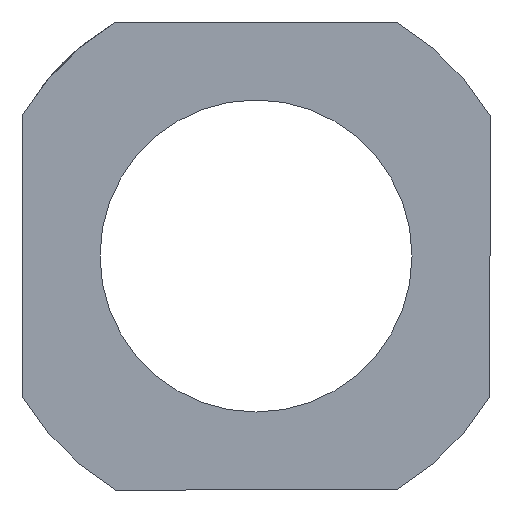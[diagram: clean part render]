
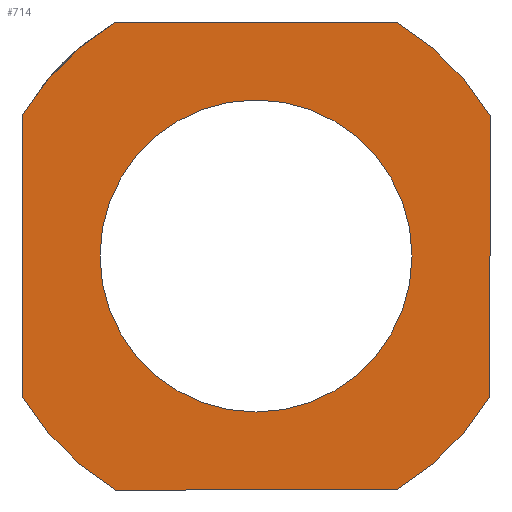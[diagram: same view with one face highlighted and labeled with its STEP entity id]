
A CAD part, left-side view. The second image highlights one B-rep face of the part: STEP entity #714.
In plain terms, the highlighted planar face has unit normal (-1, 0, 0).
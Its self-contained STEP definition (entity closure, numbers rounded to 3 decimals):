
#409=CARTESIAN_POINT('',(0.0,-10.0,0.0));
#410=VERTEX_POINT('',#409);
#411=CARTESIAN_POINT('',(0.0,0.0,0.0));
#412=DIRECTION('',(1.0,0.0,0.0));
#413=DIRECTION('',(0.0,-1.0,0.0));
#414=AXIS2_PLACEMENT_3D('',#411,#412,#413);
#415=CIRCLE('',#414,10.0);
#416=EDGE_CURVE('',#410,#410,#415,.T.);
#436=CARTESIAN_POINT('',(0.0,9.014,15.0));
#437=VERTEX_POINT('',#436);
#444=CARTESIAN_POINT('',(0.0,-9.014,15.));
#445=VERTEX_POINT('',#444);
#446=CARTESIAN_POINT('',(0.0,-9.014,15.));
#447=DIRECTION('',(0.0,1.0,0.0));
#448=VECTOR('',#447,18.028);
#449=LINE('',#446,#448);
#450=EDGE_CURVE('',#445,#437,#449,.T.);
#476=CARTESIAN_POINT('',(0.0,-9.014,-15.));
#477=VERTEX_POINT('',#476);
#484=CARTESIAN_POINT('',(0.0,9.014,-15.0));
#485=VERTEX_POINT('',#484);
#486=CARTESIAN_POINT('',(0.0,9.014,-15.0));
#487=DIRECTION('',(0.0,-1.0,0.0));
#488=VECTOR('',#487,18.028);
#489=LINE('',#486,#488);
#490=EDGE_CURVE('',#485,#477,#489,.T.);
#516=CARTESIAN_POINT('',(0.0,-15.,9.014));
#517=VERTEX_POINT('',#516);
#524=CARTESIAN_POINT('',(0.0,-15.,-9.014));
#525=VERTEX_POINT('',#524);
#526=CARTESIAN_POINT('',(0.0,-15.,-9.014));
#527=DIRECTION('',(0.0,0.0,1.0));
#528=VECTOR('',#527,18.028);
#529=LINE('',#526,#528);
#530=EDGE_CURVE('',#525,#517,#529,.T.);
#556=CARTESIAN_POINT('',(0.0,15.0,-9.014));
#557=VERTEX_POINT('',#556);
#564=CARTESIAN_POINT('',(0.0,15.0,9.014));
#565=VERTEX_POINT('',#564);
#566=CARTESIAN_POINT('',(0.0,15.0,9.014));
#567=DIRECTION('',(0.0,0.0,-1.0));
#568=VECTOR('',#567,18.028);
#569=LINE('',#566,#568);
#570=EDGE_CURVE('',#565,#557,#569,.T.);
#587=CARTESIAN_POINT('',(0.0,0.0,0.0));
#588=DIRECTION('',(1.0,0.0,0.0));
#589=DIRECTION('',(0.0,1.0,0.0));
#590=AXIS2_PLACEMENT_3D('',#587,#588,#589);
#591=CIRCLE('',#590,17.5);
#592=EDGE_CURVE('',#485,#557,#591,.T.);
#619=CARTESIAN_POINT('',(0.0,0.0,0.0));
#620=DIRECTION('',(1.0,0.0,0.0));
#621=DIRECTION('',(0.0,1.0,0.0));
#622=AXIS2_PLACEMENT_3D('',#619,#620,#621);
#623=CIRCLE('',#622,17.5);
#624=EDGE_CURVE('',#525,#477,#623,.T.);
#643=CARTESIAN_POINT('',(0.0,0.0,0.0));
#644=DIRECTION('',(1.0,0.0,0.0));
#645=DIRECTION('',(0.0,1.0,0.0));
#646=AXIS2_PLACEMENT_3D('',#643,#644,#645);
#647=CIRCLE('',#646,17.5);
#648=EDGE_CURVE('',#565,#437,#647,.T.);
#690=CARTESIAN_POINT('',(0.0,8.75,0.0));
#691=DIRECTION('',(-1.0,0.0,0.0));
#692=DIRECTION('',(0.0,0.0,1.0));
#693=AXIS2_PLACEMENT_3D('',#690,#691,#692);
#694=PLANE('',#693);
#695=ORIENTED_EDGE('',*,*,#450,.T.);
#696=ORIENTED_EDGE('',*,*,#648,.F.);
#697=ORIENTED_EDGE('',*,*,#570,.T.);
#698=ORIENTED_EDGE('',*,*,#592,.F.);
#699=ORIENTED_EDGE('',*,*,#490,.T.);
#700=ORIENTED_EDGE('',*,*,#624,.F.);
#701=ORIENTED_EDGE('',*,*,#530,.T.);
#702=CARTESIAN_POINT('',(0.0,0.0,0.0));
#703=DIRECTION('',(1.0,0.0,0.0));
#704=DIRECTION('',(0.0,1.0,0.0));
#705=AXIS2_PLACEMENT_3D('',#702,#703,#704);
#706=CIRCLE('',#705,17.5);
#707=EDGE_CURVE('',#445,#517,#706,.T.);
#708=ORIENTED_EDGE('',*,*,#707,.F.);
#709=EDGE_LOOP('',(#695,#696,#697,#698,#699,#700,#701,#708));
#710=FACE_OUTER_BOUND('',#709,.T.);
#711=ORIENTED_EDGE('',*,*,#416,.T.);
#712=EDGE_LOOP('',(#711));
#713=FACE_BOUND('',#712,.T.);
#714=ADVANCED_FACE('',(#710,#713),#694,.T.);
